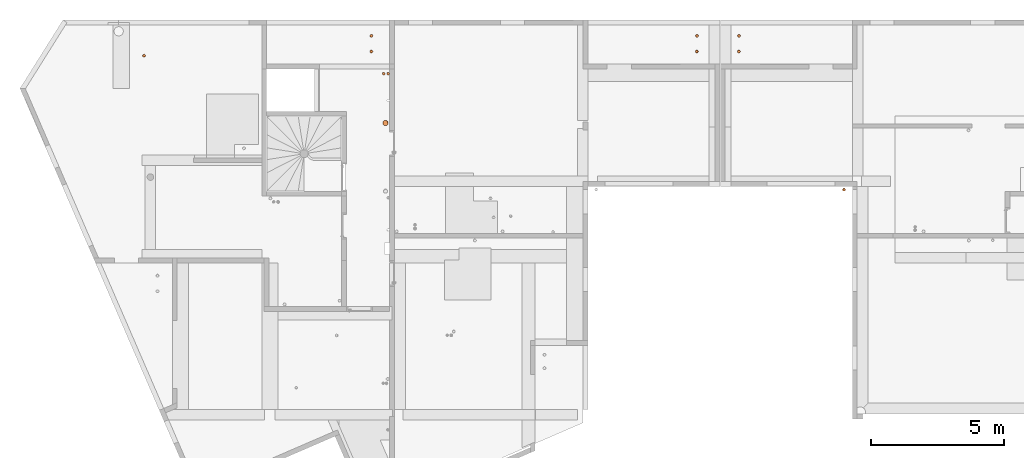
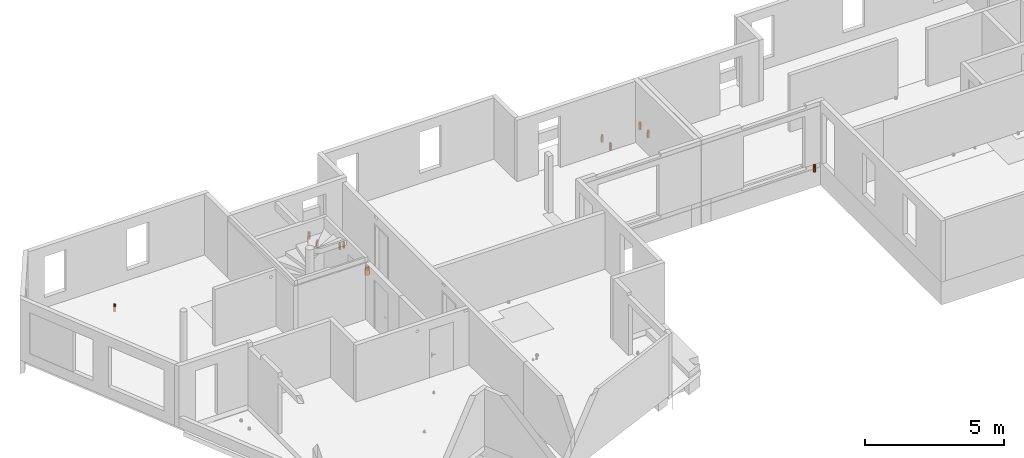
# One storey, part 29 of 34: 11 proxies.
"""IFC2X3 building model written with IfcOpenShell, lengths in centimetres."""

from ifc_helpers import new_model, entity, si_unit, converted_unit, derived_unit, direction, frame, frame_2d, origin, place, context, subcontext, project, spatial, circle, hollow_circle, extrude, source, transform, mapped, material, type_object, type_shapes, element, save


model = new_model("IFC2X3")

# Units and contexts
model_context = context("Model", 3, precision=0.001, world=origin(), true_north=direction((6.12303176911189e-17, 1.0)))
body_context = subcontext(model_context, "Body", "Model", "MODEL_VIEW")
ifc_project = project(units=[si_unit("LENGTHUNIT", "METRE", prefix="CENTI"), si_unit("AREAUNIT", "SQUARE_METRE"), si_unit("VOLUMEUNIT", "CUBIC_METRE"), converted_unit("PLANEANGLEUNIT", "DEGREE", entity("IfcRatioMeasure", 0.0174532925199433), si_unit("PLANEANGLEUNIT", "RADIAN"), dimensions=[0, 0, 0, 0, 0, 0, 0]), si_unit("MASSUNIT", "GRAM", prefix="KILO"), derived_unit("MASSDENSITYUNIT", [(si_unit("MASSUNIT", "GRAM", prefix="KILO"), 1), (si_unit("LENGTHUNIT", "METRE"), -3)]), si_unit("TIMEUNIT", "SECOND"), si_unit("FREQUENCYUNIT", "HERTZ"), si_unit("THERMODYNAMICTEMPERATUREUNIT", "DEGREE_CELSIUS"), derived_unit("THERMALTRANSMITTANCEUNIT", [(si_unit("MASSUNIT", "GRAM", prefix="KILO"), 1), (si_unit("THERMODYNAMICTEMPERATUREUNIT", "KELVIN"), -1), (si_unit("TIMEUNIT", "SECOND"), -3)]), derived_unit("VOLUMETRICFLOWRATEUNIT", [(si_unit("LENGTHUNIT", "METRE"), 3), (si_unit("TIMEUNIT", "SECOND"), -1)]), si_unit("ELECTRICCURRENTUNIT", "AMPERE"), si_unit("ELECTRICVOLTAGEUNIT", "VOLT"), si_unit("POWERUNIT", "WATT"), si_unit("FORCEUNIT", "NEWTON"), si_unit("ILLUMINANCEUNIT", "LUX"), si_unit("LUMINOUSFLUXUNIT", "LUMEN"), si_unit("LUMINOUSINTENSITYUNIT", "CANDELA"), derived_unit("USERDEFINED", [(si_unit("MASSUNIT", "GRAM", prefix="KILO"), -1), (si_unit("LENGTHUNIT", "METRE"), -2), (si_unit("TIMEUNIT", "SECOND"), 3), (si_unit("LUMINOUSFLUXUNIT", "LUMEN"), 1)]), derived_unit("LINEARVELOCITYUNIT", [(si_unit("LENGTHUNIT", "METRE"), 1), (si_unit("TIMEUNIT", "SECOND"), -1)]), si_unit("PRESSUREUNIT", "PASCAL"), derived_unit("USERDEFINED", [(si_unit("LENGTHUNIT", "METRE"), -2), (si_unit("MASSUNIT", "GRAM", prefix="KILO"), 1), (si_unit("TIMEUNIT", "SECOND"), -2)])], contexts=[model_context])

# Site, building, storey
site_placement = place(None, origin())
site = spatial("IfcSite", under=ifc_project, at=site_placement, Name="Default", CompositionType="ELEMENT")
building_placement = place(site_placement, origin())
building = spatial("IfcBuilding", under=site, at=building_placement, Name="CAGE 03", CompositionType="ELEMENT")
storey_placement = place(building_placement, frame((0.0, 0.0, 340.0)))
storey = spatial("IfcBuildingStorey", under=building, at=storey_placement, Name="R+1", CompositionType="ELEMENT", Elevation=340.0)

# Proxies
ifc_material_1 = material(Name="Conduit EP")
building_element_proxy_type_1 = type_object("IfcBuildingElementProxyType", Name="EP 100", PredefinedType="NOTDEFINED", material=ifc_material_1)
shared_shape_1 = source(origin(), body_context, "Body", "SweptSolid", [
    extrude(circle(Radius=5.5, at=frame_2d((0.0, -8.88549515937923e-15), x_axis=(1.0, 0.0))), frame((0.0, 0.0, -23.0)), (0.0, 0.0, 1.0), 23.0),
    extrude(hollow_circle(Radius=5.0, WallThickness=0.25, at=frame_2d((0.0, -8.07772287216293e-15), x_axis=(1.0, 0.0))), frame((0.0, 0.0, -23.0)), (0.0, 0.0, 1.0), 30.5),
])
type_shapes(building_element_proxy_type_1, [shared_shape_1])
for number, where, name in (
    (1, (5445.10324436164, 5234.24642234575, -25.0), "Galette - Résa - PVC:EP 100"),
    (2, (5287.59188832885, 5234.24765081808, -25.0), "Galette - Résa - PVC:EP 100"),
    (3, (5287.59188832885, 5175.42924962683, -25.0), "Galette - Résa - PVC:EP 100"),
    (4, (4065.59082232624, 5234.24642234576, -25.0), "Galette - Résa - PVC:EP 100"),
    (5, (5839.41873194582, 4657.4015244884, -4.46999646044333e-07), "Galette - Résa - PVC:EP 100"),
    (6, (4065.59082232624, 5175.42924962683, -25.0), "Galette - Résa - PVC:EP 100"),
    (7, (3212.70611734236, 5159.70027840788, -4.46999754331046e-07), "Galette - Résa - PVC:EP 100"),
    (8, (5445.10324436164, 5175.42924962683, -25.0), "Galette - Résa - PVC:EP 100"),
):
    element("IfcBuildingElementProxy", number, at=place(storey_placement, frame(where)), inside=storey, type_object=building_element_proxy_type_1, material=ifc_material_1, Name=name, ObjectType="EP 100", context=body_context, shape_type="MappedRepresentation", body=[
        mapped(shared_shape_1, transform((0.0, 0.0, 0.0), scale=1.0)),
    ])
building_element_proxy_type_2 = type_object("IfcBuildingElementProxyType", Name="EP 160", PredefinedType="NOTDEFINED", material=ifc_material_1)
shared_shape_2 = source(origin(), body_context, "Body", "SweptSolid", [
    extrude(circle(Radius=10.0, at=frame_2d((0.0, -1.61554457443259e-14), x_axis=(1.0, 0.0))), frame((0.0, 0.0, -23.0)), (0.0, 0.0, 1.0), 23.0),
    extrude(hollow_circle(Radius=8.0, WallThickness=0.250000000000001, at=frame_2d((0.0, -1.29243565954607e-14), x_axis=(1.0, 0.0))), frame((0.0, 0.0, -23.0)), (0.0, 0.0, 1.0), 30.5),
])
type_shapes(building_element_proxy_type_2, [shared_shape_2])
proxy_1_placement = place(storey_placement, frame((4118.79282427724, 4907.15627952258, -4.46999646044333e-07)))
element("IfcBuildingElementProxy", 9, at=proxy_1_placement, inside=storey, type_object=building_element_proxy_type_2, material=ifc_material_1, Name="Galette - Résa - PVC:EP 160", ObjectType="EP 160", context=body_context, shape_type="MappedRepresentation", body=[
    mapped(shared_shape_2, transform((0.0, 0.0, 0.0), scale=1.0)),
])
ifc_material_2 = material(Name="Circuit CHF Aller")
building_element_proxy_type_3 = type_object("IfcBuildingElementProxyType", Name="CHF Aller 40", PredefinedType="NOTDEFINED", material=ifc_material_2)
shared_shape_3 = source(origin(), body_context, "Body", "SweptSolid", [
    extrude(circle(Radius=5.0, at=frame_2d((0.0, -8.07772287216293e-15), x_axis=(1.0, 0.0))), frame((0.0, 0.0, -23.0)), (0.0, 0.0, 1.0), 23.0),
    extrude(hollow_circle(Radius=2.0, WallThickness=0.4, at=frame_2d((0.0, -3.23108914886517e-15), x_axis=(1.0, 0.0))), frame((0.0, 0.0, -23.0)), (0.0, 0.0, 1.0), 30.5),
])
type_shapes(building_element_proxy_type_3, [shared_shape_3])
proxy_2_placement = place(storey_placement, frame((4111.59705654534, 5092.36066607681, -4.46999646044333e-07)))
element("IfcBuildingElementProxy", 10, at=proxy_2_placement, inside=storey, type_object=building_element_proxy_type_3, material=ifc_material_2, Name="Galette - Résa - PVC:CHF Aller 40", ObjectType="CHF Aller 40", context=body_context, shape_type="MappedRepresentation", body=[
    mapped(shared_shape_3, transform((0.0, 0.0, 0.0), scale=1.0)),
])
ifc_material_3 = material(Name="Circuit CHF Retour")
building_element_proxy_type_4 = type_object("IfcBuildingElementProxyType", Name="CFO125 P100", PredefinedType="NOTDEFINED", material=ifc_material_3)
shared_shape_4 = source(origin(), body_context, "Body", "SweptSolid", [
    extrude(circle(Radius=5.0, at=frame_2d((0.0, -8.07772287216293e-15), x_axis=(1.0, 0.0))), frame((0.0, 0.0, -23.0)), (0.0, 0.0, 1.0), 23.0),
    extrude(hollow_circle(Radius=2.0, WallThickness=0.4, at=frame_2d((0.0, -3.23108914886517e-15), x_axis=(1.0, 0.0))), frame((0.0, 0.0, -23.0)), (0.0, 0.0, 1.0), 30.5),
])
type_shapes(building_element_proxy_type_4, [shared_shape_4])
proxy_3_placement = place(storey_placement, frame((4128.59705654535, 5092.36066607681, -4.46999646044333e-07)))
element("IfcBuildingElementProxy", 11, at=proxy_3_placement, inside=storey, type_object=building_element_proxy_type_4, material=ifc_material_3, Name="Galette - Résa - PVC:CFO125 P100", ObjectType="CFO125 P100", context=body_context, shape_type="MappedRepresentation", body=[
    mapped(shared_shape_4, transform((0.0, 0.0, 0.0), scale=1.0)),
])

save(model, "model.ifc")
